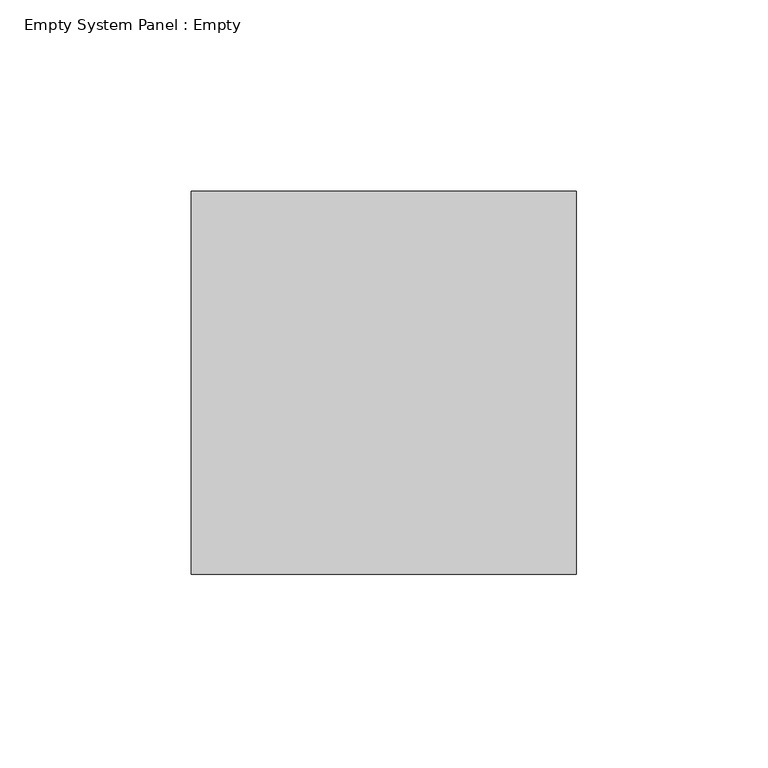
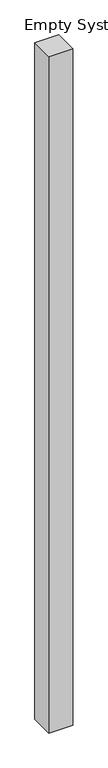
"""IFC4 building model written with IfcOpenShell, lengths in millimetres: plate geometry, Empty System Panel : Empty."""

from ifc_helpers import new_model, si_unit, origin, origin_with_axes, place, context, project, spatial, polyline, outline, extrude, source, transform, mapped, element, save


def empty_system_panel_empty_f8daaecc(model_context):
    return source(origin(), model_context, "Body", "SweptSolid", [
        extrude(outline(polyline([(50.2512627, -50.0), (-50.2512627, -50.0), (-50.2512627, 50.0), (50.2512627, 50.0), (50.2512627, -50.0)])), origin_with_axes(), (0.0, 0.0, 1.0), 3000.0),
    ])


if __name__ == "__main__":
    model = new_model("IFC4")
    model_context = context("Model", 3, world=origin())
    ifc_project = project(units=[si_unit("LENGTHUNIT", "METRE", prefix="MILLI")], contexts=[model_context])
    site = spatial("IfcSite", under=ifc_project)
    building = spatial("IfcBuilding", under=site)
    placement = place(None, origin())
    empty_system_panel_empty_shape = empty_system_panel_empty_f8daaecc(model_context)
    element("IfcPlate", 1, ObjectType="Empty System Panel : Empty", at=placement, inside=building, context=model_context, shape_type="MappedRepresentation", body=[
        mapped(empty_system_panel_empty_shape, transform((0.0, 0.0, 0.0), x_axis=(1.0, 0.0, 0.0), y_axis=(0.0, 1.0, 0.0), z_axis=(0.0, 0.0, 1.0))),
    ])
    save(model, "model.ifc")
